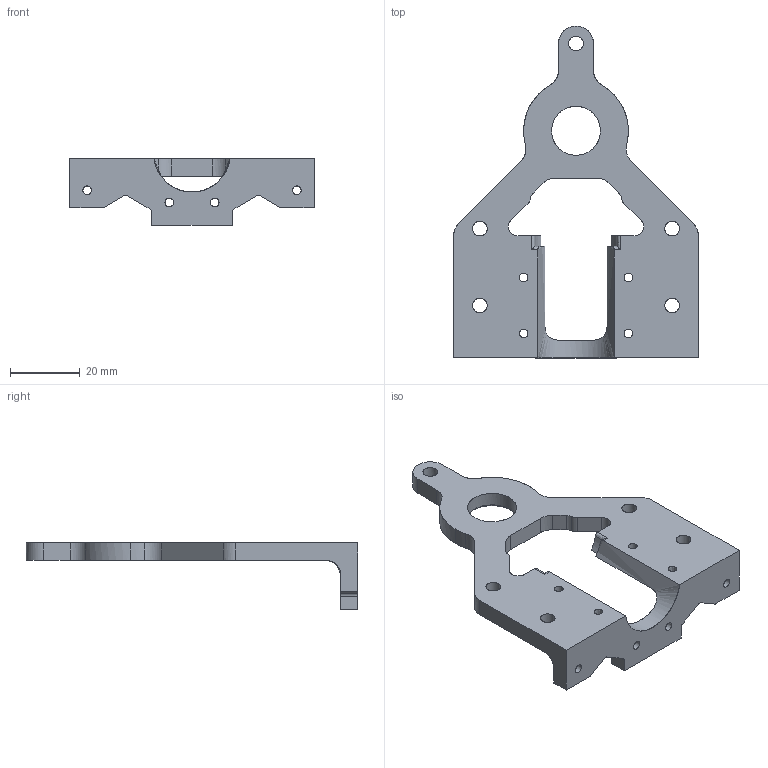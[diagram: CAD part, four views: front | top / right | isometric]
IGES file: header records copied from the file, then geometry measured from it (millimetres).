
Start section: C
Global section: file name: asmhousing2.igs; native system:  By UGS Corp.; preprocessor: XPlus GENERIC/IGES 3.0; author: Author; organization: Title; date: 20121205.205411; units: millimetre
Bounding box: 70 x 95 x 19 mm (x, y, z)
Surface area: 10288.6 mm2 (no closed solid volume)
Topology: 0 solids, 0 shells, 78 faces, 522 edges, 522 vertices
Faces by surface type: bspline 78
